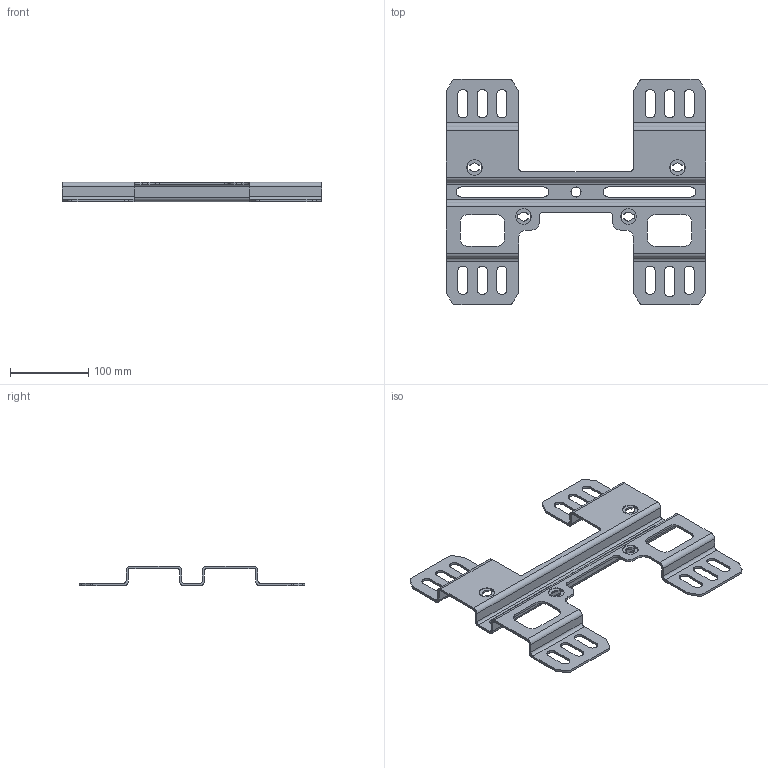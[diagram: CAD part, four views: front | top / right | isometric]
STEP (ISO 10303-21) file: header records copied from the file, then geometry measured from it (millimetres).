
FILE_DESCRIPTION((''),'2;1');
FILE_NAME('GLP-14712','2024-04-29T11:03:25',('SabrinaKnab'),(''),'CREO PARAMETRIC BY PTC INC, 2023073','CREO PARAMETRIC BY PTC INC, 2023073','');
FILE_SCHEMA(('AUTOMOTIVE_DESIGN { 1 0 10303 214 1 1 1 1 }'));
Length unit declared in the file: millimetre
Products named in the file (1): GLP-14712
Bounding box: 333 x 288.93 x 25 mm (x, y, z)
Volume: 201697.6 mm3; surface area: 146913.3 mm2
Topology: 1 solids, 1 shells, 216 faces, 634 edges, 424 vertices
Faces by surface type: plane 114, cylinder 102
Entity records: 8144 total; most frequent: DIRECTION 1354, CARTESIAN_POINT 1344, ORIENTED_EDGE 1260, EDGE_CURVE 630, VECTOR 485, LINE 485, AXIS2_PLACEMENT_3D 433, VERTEX_POINT 420
